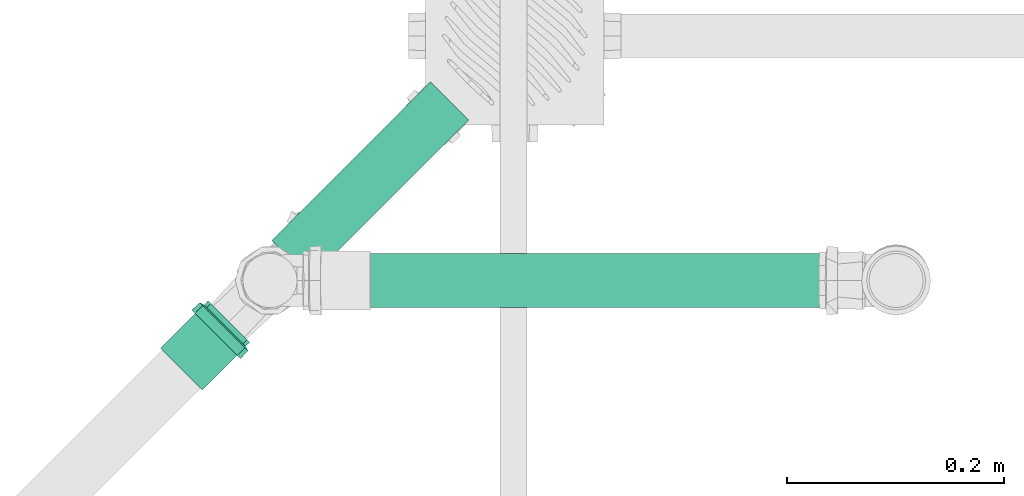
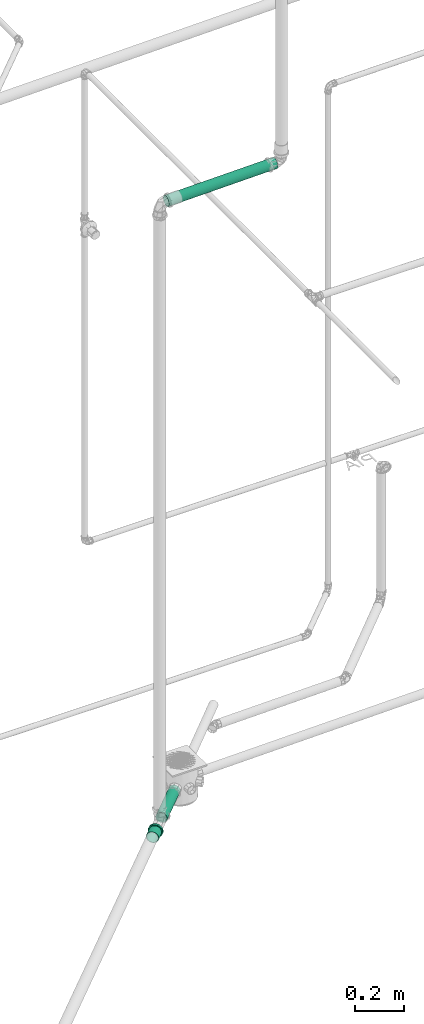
# One storey, part 66 of 589: 2 flow segments, 1 flow fitting.
"""IFC2X3 building model written with IfcOpenShell, lengths in millimetres."""

from ifc_helpers import new_model, entity, si_unit, converted_unit, derived_unit, direction, frame, frame_2d, origin, origin_2d_with_axis, place, context, subcontext, project, spatial, circle, extrude, faceted_brep, source, transform, mapped, material, type_object, type_shapes, element, save


model = new_model("IFC2X3")

# Units and contexts
model_context = context("Model", 3, precision=0.01, world=origin(), true_north=direction((6.123031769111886e-17, 1.0)))
body_context = subcontext(model_context, "Body", "Model", "MODEL_VIEW")
ifc_project = project(units=[si_unit("LENGTHUNIT", "METRE", prefix="MILLI"), si_unit("AREAUNIT", "SQUARE_METRE"), si_unit("VOLUMEUNIT", "CUBIC_METRE"), converted_unit("PLANEANGLEUNIT", "DEGREE", entity("IfcRatioMeasure", 0.017453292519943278), si_unit("PLANEANGLEUNIT", "RADIAN"), dimensions=[0, 0, 0, 0, 0, 0, 0]), si_unit("MASSUNIT", "GRAM", prefix="KILO"), derived_unit("MASSDENSITYUNIT", [(si_unit("MASSUNIT", "GRAM", prefix="KILO"), 1), (si_unit("LENGTHUNIT", "METRE"), -3)]), derived_unit("IONCONCENTRATIONUNIT", [(si_unit("MASSUNIT", "GRAM", prefix="KILO"), 1), (si_unit("LENGTHUNIT", "METRE"), -3)]), derived_unit("MOMENTOFINERTIAUNIT", [(si_unit("LENGTHUNIT", "METRE"), 4)]), si_unit("TIMEUNIT", "SECOND"), si_unit("FREQUENCYUNIT", "HERTZ"), si_unit("THERMODYNAMICTEMPERATUREUNIT", "DEGREE_CELSIUS"), derived_unit("THERMALTRANSMITTANCEUNIT", [(si_unit("MASSUNIT", "GRAM", prefix="KILO"), 1), (si_unit("THERMODYNAMICTEMPERATUREUNIT", "KELVIN"), -1), (si_unit("TIMEUNIT", "SECOND"), -3)]), derived_unit("THERMALCONDUCTANCEUNIT", [(si_unit("MASSUNIT", "GRAM", prefix="KILO"), 1), (si_unit("THERMODYNAMICTEMPERATUREUNIT", "KELVIN"), -1), (si_unit("TIMEUNIT", "SECOND"), -3), (si_unit("LENGTHUNIT", "METRE"), 1)]), derived_unit("VOLUMETRICFLOWRATEUNIT", [(si_unit("LENGTHUNIT", "METRE"), 3), (si_unit("TIMEUNIT", "SECOND"), -1)]), derived_unit("MASSFLOWRATEUNIT", [(si_unit("MASSUNIT", "GRAM", prefix="KILO"), 1), (si_unit("TIMEUNIT", "SECOND"), -1)]), derived_unit("ROTATIONALFREQUENCYUNIT", [(si_unit("TIMEUNIT", "SECOND"), -1)]), si_unit("ELECTRICCURRENTUNIT", "AMPERE"), si_unit("ELECTRICVOLTAGEUNIT", "VOLT"), si_unit("POWERUNIT", "WATT"), si_unit("FORCEUNIT", "NEWTON", prefix="KILO"), si_unit("ILLUMINANCEUNIT", "LUX"), si_unit("LUMINOUSFLUXUNIT", "LUMEN"), si_unit("LUMINOUSINTENSITYUNIT", "CANDELA"), derived_unit("USERDEFINED", [(si_unit("MASSUNIT", "GRAM", prefix="KILO"), -1), (si_unit("LENGTHUNIT", "METRE"), -2), (si_unit("TIMEUNIT", "SECOND"), 3), (si_unit("LUMINOUSFLUXUNIT", "LUMEN"), 1)]), derived_unit("USERDEFINED", [(si_unit("MASSUNIT", "GRAM", prefix="KILO"), 1), (si_unit("TIMEUNIT", "SECOND"), -3), (si_unit("LENGTHUNIT", "METRE"), 3), (si_unit("ELECTRICCURRENTUNIT", "AMPERE"), -2)]), derived_unit("SOUNDPOWERUNIT", [(si_unit("MASSUNIT", "GRAM", prefix="KILO"), 1), (si_unit("TIMEUNIT", "SECOND"), -3), (si_unit("LENGTHUNIT", "METRE"), 2)]), derived_unit("SOUNDPRESSUREUNIT", [(si_unit("MASSUNIT", "GRAM", prefix="KILO"), 1), (si_unit("LENGTHUNIT", "METRE"), -1), (si_unit("TIMEUNIT", "SECOND"), -2)]), derived_unit("LINEARVELOCITYUNIT", [(si_unit("LENGTHUNIT", "METRE"), 1), (si_unit("TIMEUNIT", "SECOND"), -1)]), si_unit("PRESSUREUNIT", "PASCAL"), derived_unit("USERDEFINED", [(si_unit("MASSUNIT", "GRAM", prefix="KILO"), 1), (si_unit("LENGTHUNIT", "METRE"), -2), (si_unit("TIMEUNIT", "SECOND"), -2)]), derived_unit("LINEARFORCEUNIT", [(si_unit("MASSUNIT", "GRAM", prefix="KILO"), 1), (si_unit("TIMEUNIT", "SECOND"), -2)]), derived_unit("PLANARFORCEUNIT", [(si_unit("MASSUNIT", "GRAM", prefix="KILO"), 1), (si_unit("LENGTHUNIT", "METRE"), -1), (si_unit("TIMEUNIT", "SECOND"), -2)]), derived_unit("SPECIFICHEATCAPACITYUNIT", [(si_unit("THERMODYNAMICTEMPERATUREUNIT", "KELVIN"), -1), (si_unit("LENGTHUNIT", "METRE"), 2), (si_unit("TIMEUNIT", "SECOND"), -2)]), derived_unit("HEATINGVALUEUNIT", [(si_unit("LENGTHUNIT", "METRE"), 2), (si_unit("TIMEUNIT", "SECOND"), -2)]), derived_unit("VAPORPERMEABILITYUNIT", [(si_unit("LENGTHUNIT", "METRE"), -1), (si_unit("TIMEUNIT", "SECOND"), 1)]), derived_unit("DYNAMICVISCOSITYUNIT", [(si_unit("MASSUNIT", "GRAM", prefix="KILO"), 1), (si_unit("TIMEUNIT", "SECOND"), -1), (si_unit("LENGTHUNIT", "METRE"), -1)]), derived_unit("THERMALEXPANSIONCOEFFICIENTUNIT", [(si_unit("THERMODYNAMICTEMPERATUREUNIT", "KELVIN"), -1)]), derived_unit("MODULUSOFELASTICITYUNIT", [(si_unit("MASSUNIT", "GRAM", prefix="KILO"), 1), (si_unit("LENGTHUNIT", "METRE"), -1), (si_unit("TIMEUNIT", "SECOND"), -2)]), derived_unit("ISOTHERMALMOISTURECAPACITYUNIT", [(si_unit("LENGTHUNIT", "METRE"), 3), (si_unit("MASSUNIT", "GRAM", prefix="KILO"), -1)]), derived_unit("MOISTUREDIFFUSIVITYUNIT", [(si_unit("TIMEUNIT", "SECOND"), -1), (si_unit("LENGTHUNIT", "METRE"), 2)])], contexts=[model_context])

# Site, building, storey
site_placement = place(None, origin())
site = spatial("IfcSite", under=ifc_project, at=site_placement, Name="Default", CompositionType="ELEMENT")
building_placement = place(site_placement, origin())
building = spatial("IfcBuilding", under=site, at=building_placement, CompositionType="ELEMENT")
storey_placement = place(building_placement, frame((0.0, 0.0, 100.0)))
storey = spatial("IfcBuildingStorey", under=building, at=storey_placement, Name="TÉRREO", CompositionType="ELEMENT", Elevation=100.0)

# Flow segments
pipe_segment_type = type_object("IfcPipeSegmentType", Name="Tipos de tubos:PVC Esgoto Série Normal", PredefinedType="NOTDEFINED")
flow_segment_1_placement = place(storey_placement, origin())
element("IfcFlowSegment", 1, at=flow_segment_1_placement, inside=storey, type_object=pipe_segment_type, Name="Tipos de tubos:PVC Esgoto Série Normal", ObjectType="Tipos de tubos:PVC Esgoto Série Normal", context=body_context, shape_type="SweptSolid", body=[
    extrude(circle(Radius=25.0, at=frame_2d((0.0, -2.1149748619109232e-14), x_axis=(1.0, 0.0))), frame((-7567.568450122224, -5310.745258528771, -109.95070554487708), z_axis=(0.7071067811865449, 0.7071067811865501, 0.0), x_axis=(-0.7071067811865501, 0.7071067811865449, 0.0)), (0.0, 0.0, 1.0), 207.1660925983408),
])
flow_segment_2_placement = place(storey_placement, origin())
element("IfcFlowSegment", 2, at=flow_segment_2_placement, inside=storey, type_object=pipe_segment_type, Name="Tipos de tubos:PVC Esgoto Série Normal", ObjectType="Tipos de tubos:PVC Esgoto Série Normal", context=body_context, shape_type="SweptSolid", body=[
    extrude(circle(Radius=25.0, at=origin_2d_with_axis()), frame((-7556.31313326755, -5330.070962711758, 2995.447097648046), z_axis=(0.999800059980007, 0.0, 0.01999600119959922), x_axis=(0.0, -1.0, 0.0)), (0.0, 0.0, 1.0), 516.4963559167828),
])

# Flow fitting
ifc_material = material(Name="PVC Série Normal")
pipe_fitting_type = type_object("IfcPipeFittingType", Name="PVC Esgoto_Luva Simples para Conexão_Rodrigo MEP:Standard", PredefinedType="NOTDEFINED", material=ifc_material)
shared_shape = source(origin(), body_context, "Body", "Brep", [
    faceted_brep([(16.599999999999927, 15.900000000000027, -27.53960784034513), (16.599999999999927, 22.485995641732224, -22.485995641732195), (16.599999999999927, 13.599999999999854, -23.555890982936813), (16.599999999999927, 7.039878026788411, -26.273182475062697), (16.599999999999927, 8.2304456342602, -30.71644127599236), (16.599999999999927, 19.233304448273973, -19.233304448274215), (16.599999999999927, 27.539607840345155, -15.899999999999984), (16.599999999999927, 23.55589098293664, -13.600000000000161), (16.599999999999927, 26.273182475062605, -7.03987802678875), (16.599999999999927, 30.716441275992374, -8.230445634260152), (16.599999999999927, 27.2, 0.0), (16.599999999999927, 31.8, 0.0), (16.599999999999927, 26.273182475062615, 7.0398780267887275), (16.599999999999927, 30.71644127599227, 8.23044563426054), (16.599999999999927, 23.555890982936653, 13.60000000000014), (16.599999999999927, 27.539607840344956, 15.900000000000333), (16.599999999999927, 19.233304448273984, 19.2333044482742), (16.599999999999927, 22.485995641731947, 22.48599564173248), (16.599999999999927, 13.599999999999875, 23.555890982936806), (16.599999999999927, 15.899999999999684, 27.53960784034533), (16.599999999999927, 7.039878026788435, 26.27318247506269), (16.599999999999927, 8.230445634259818, 30.716441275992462), (16.599999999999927, 0.0, 27.2), (16.599999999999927, 0.0, 31.8), (16.599999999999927, -7.039878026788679, 26.273182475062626), (16.599999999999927, -8.230445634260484, 30.716441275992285), (16.599999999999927, -13.600000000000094, 23.555890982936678), (16.599999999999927, -15.900000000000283, 27.53960784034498), (16.599999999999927, -19.23330444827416, 19.233304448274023), (16.599999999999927, -22.485995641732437, 22.48599564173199), (16.599999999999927, -23.55589098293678, 13.59999999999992), (16.599999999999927, -27.539607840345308, 15.899999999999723), (16.599999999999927, -30.71644127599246, 8.230445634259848), (16.599999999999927, -26.273182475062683, 7.039878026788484), (16.599999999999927, -31.8, 0.0), (16.599999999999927, -27.2, 0.0), (16.599999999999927, -30.71644127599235, -8.23044563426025), (16.599999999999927, -26.273182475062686, -7.03987802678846), (16.599999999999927, -27.53960784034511, -15.90000000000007), (16.599999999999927, -23.55589098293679, -13.599999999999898), (16.599999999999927, -22.485995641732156, -22.485995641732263), (16.599999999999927, -19.233304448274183, -19.233304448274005), (16.599999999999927, -15.899999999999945, -27.53960784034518), (16.599999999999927, -13.600000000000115, -23.555890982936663), (16.599999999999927, -8.230445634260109, -30.716441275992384), (16.599999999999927, -7.039878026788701, -26.273182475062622), (16.599999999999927, 0.0, -31.8), (16.599999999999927, 0.0, -27.2), (6.500000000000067, -10.708108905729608, 29.429219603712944), (6.500000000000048, -24.359073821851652, 20.44200387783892), (6.500000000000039, -27.120498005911, 15.6595386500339), (6.50000000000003, -29.881922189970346, 10.877073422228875), (6.500000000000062, -15.89769721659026, 27.540937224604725), (6.500000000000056, -20.128385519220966, 23.991470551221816), (6.50000000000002, -30.840961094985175, 5.438536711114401), (6.5000000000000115, -31.8, 0.0), (6.50000000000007, -5.518520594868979, 31.317501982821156), (6.500000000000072, 5.526376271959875, 31.316116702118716), (6.50000000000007, 0.00392783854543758, 31.316809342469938), (6.500000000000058, 20.134403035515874, 23.986420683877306), (6.500000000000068, 10.715490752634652, 29.42653259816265), (6.500000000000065, 15.904605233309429, 27.536948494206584), (6.500000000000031, 29.8846497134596, 10.869577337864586), (6.500000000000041, 27.12442527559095, 15.652735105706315), (6.5000000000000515, 24.364200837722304, 20.435892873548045), (6.5000000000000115, 31.8, 0.0), (6.499999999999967, 24.364200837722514, -20.435892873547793), (6.499999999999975, 27.12442527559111, -15.652735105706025), (6.499999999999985, 29.884649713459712, -10.869577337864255), (6.4999999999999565, 15.904605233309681, -27.53694849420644), (6.499999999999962, 20.134403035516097, -23.986420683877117), (6.499999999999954, 10.715490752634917, -29.42653259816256), (6.499999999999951, 5.526376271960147, -31.31611670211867), (6.499999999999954, -5.518520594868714, -31.317501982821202), (6.499999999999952, 0.003927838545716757, -31.316809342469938), (6.499999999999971, -20.128385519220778, -23.99147055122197), (6.499999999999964, -15.897697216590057, -27.54093722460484), (6.499999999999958, -10.70810890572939, -29.42921960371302), (6.499999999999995, -29.881922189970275, -10.877073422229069), (6.499999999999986, -27.12049800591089, -15.659538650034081), (6.499999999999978, -24.359073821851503, -20.442003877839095), (6.500000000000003, -30.840961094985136, -5.438536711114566), (6.499999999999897, -30.696173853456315, -6.259599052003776), (62.0, 13.600000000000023, -23.55589098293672), (62.0, 19.233304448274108, -19.23330444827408), (62.0, 12.499999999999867, -21.650635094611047), (62.0, 6.470476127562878, -24.14814565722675), (62.0, 7.039878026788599, -26.273182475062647), (62.0, 17.677669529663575, -17.677669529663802), (62.0, 23.55589098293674, -13.599999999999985), (62.0, 21.65063509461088, -12.50000000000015), (62.0, 24.148145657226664, -6.470476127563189), (62.0, 26.27318247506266, -7.039878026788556), (62.0, 25.0, 0.0), (62.0, 27.2, 0.0), (62.0, 24.148145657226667, 6.4704761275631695), (62.0, 26.273182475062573, 7.03987802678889), (62.0, 21.650635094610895, 12.500000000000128), (62.0, 23.555890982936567, 13.600000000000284), (62.0, 17.67766952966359, 17.67766952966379), (62.0, 19.233304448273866, 19.233304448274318), (62.0, 12.499999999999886, 21.650635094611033), (62.0, 13.59999999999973, 23.55589098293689), (62.0, 6.4704761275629, 24.14814565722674), (62.0, 7.039878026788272, 26.273182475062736), (62.0, 0.0, 25.0), (62.0, 0.0, 27.2), (62.0, -6.470476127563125, 24.148145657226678), (62.0, -7.039878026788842, 26.273182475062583), (62.0, -12.500000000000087, 21.650635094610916), (62.0, -13.600000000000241, 23.555890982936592), (62.0, -17.677669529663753, 17.677669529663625), (62.0, -19.233304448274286, 19.2333044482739), (62.0, -21.65063509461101, 12.499999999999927), (62.0, -23.555890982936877, 13.599999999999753), (62.0, -26.27318247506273, 7.039878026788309), (62.0, -24.14814565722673, 6.470476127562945), (62.0, -27.2, 0.0), (62.0, -25.0, 0.0), (62.0, -26.27318247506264, -7.0398780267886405), (62.0, -24.148145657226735, -6.470476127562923), (62.0, -23.5558909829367, -13.600000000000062), (62.0, -21.650635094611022, -12.499999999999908), (62.0, -19.233304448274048, -19.233304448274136), (62.0, -17.67766952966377, -17.677669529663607), (62.0, -13.599999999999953, -23.555890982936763), (62.0, -12.500000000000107, -21.650635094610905), (62.0, -7.039878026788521, -26.27318247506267), (62.0, -6.470476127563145, -24.148145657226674), (62.0, 0.0, -27.2), (62.0, 0.0, -25.0), (0.0, 12.499999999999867, -21.650635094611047), (0.0, 19.233304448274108, -19.23330444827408), (0.0, 13.600000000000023, -23.55589098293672), (0.0, 6.470476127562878, -24.14814565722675), (0.0, 17.677669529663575, -17.677669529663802), (0.0, 23.55589098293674, -13.599999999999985), (0.0, 21.65063509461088, -12.50000000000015), (0.0, 24.148145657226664, -6.470476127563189), (0.0, 26.27318247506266, -7.039878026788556), (0.0, 25.0, 0.0), (0.0, 27.2, 0.0), (0.0, 24.148145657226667, 6.4704761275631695), (0.0, 26.273182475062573, 7.03987802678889), (0.0, 21.650635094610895, 12.500000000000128), (0.0, 23.555890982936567, 13.600000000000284), (0.0, 17.67766952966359, 17.67766952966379), (0.0, 19.233304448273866, 19.233304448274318), (0.0, 12.499999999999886, 21.650635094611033), (0.0, 13.59999999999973, 23.55589098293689), (0.0, 6.4704761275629, 24.14814565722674), (0.0, 7.039878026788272, 26.273182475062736), (0.0, 0.0, 25.0), (0.0, 0.0, 27.2), (0.0, -6.470476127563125, 24.148145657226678), (0.0, -7.039878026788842, 26.273182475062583), (0.0, -12.500000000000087, 21.650635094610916), (0.0, -13.600000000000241, 23.555890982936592), (0.0, -17.677669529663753, 17.677669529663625), (0.0, -19.233304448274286, 19.2333044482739), (0.0, -21.65063509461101, 12.499999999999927), (0.0, -23.555890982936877, 13.599999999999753), (0.0, -26.27318247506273, 7.039878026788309), (0.0, -24.14814565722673, 6.470476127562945), (0.0, -27.2, 0.0), (0.0, -25.0, 0.0), (0.0, -26.27318247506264, -7.0398780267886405), (0.0, -24.148145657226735, -6.470476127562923), (0.0, -23.5558909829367, -13.600000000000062), (0.0, -21.650635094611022, -12.499999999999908), (0.0, -19.233304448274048, -19.233304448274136), (0.0, -17.67766952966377, -17.677669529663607), (0.0, -13.599999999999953, -23.555890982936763), (0.0, -12.500000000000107, -21.650635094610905), (0.0, -7.039878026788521, -26.27318247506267), (0.0, -6.470476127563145, -24.148145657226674), (0.0, 0.0, -27.2), (0.0, 0.0, -25.0), (0.0, 7.039878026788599, -26.273182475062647), (5.300000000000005, -26.37968999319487, 4.651830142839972), (5.299999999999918, -26.25584678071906, 5.354122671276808), (5.300000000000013, -25.559379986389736, 9.303660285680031), (5.300000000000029, -20.835434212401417, 17.48498444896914), (5.300000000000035, -17.216732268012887, 20.521006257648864), (5.300000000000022, -23.19740709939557, 13.394322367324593), (5.3000000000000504, -4.720244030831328, 26.787297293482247), (5.300000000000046, -9.15913717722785, 25.172162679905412), (5.299999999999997, -27.2, 0.0), (5.300000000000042, -13.598030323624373, 23.557028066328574), (5.300000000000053, 9.165451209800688, 25.169864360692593), (5.300000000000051, 13.603939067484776, 23.55361632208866), (5.300000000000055, 4.7269633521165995, 26.786112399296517), (5.300000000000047, 17.221879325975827, 20.516686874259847), (5.300000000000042, 20.839819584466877, 17.479757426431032), (5.3000000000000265, 25.56171296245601, 9.297248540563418), (5.299999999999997, 27.2, 0.0), (5.3000000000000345, 23.20076627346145, 13.388502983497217), (5.300000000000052, 0.003359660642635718, 26.786704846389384), (5.299999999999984, 25.56171296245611, -9.29724854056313), (5.299999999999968, 20.839819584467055, -17.47975742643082), (5.2999999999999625, 17.22187932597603, -20.516686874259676), (5.299999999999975, 23.200766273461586, -13.388502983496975), (5.299999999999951, 4.726963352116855, -26.78611239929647), (5.2999999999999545, 9.165451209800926, -25.169864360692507), (5.299999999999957, 13.603939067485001, -23.553616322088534), (5.29999999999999, -26.379689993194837, -4.651830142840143), (5.299999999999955, -9.159137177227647, -25.17216267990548), (5.299999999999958, -13.5980303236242, -23.55702806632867), (5.299999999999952, -4.720244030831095, -26.787297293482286), (5.299999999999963, -17.216732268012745, -20.52100625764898), (5.299999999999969, -20.83543421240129, -17.484984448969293), (5.299999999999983, -25.559379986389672, -9.303660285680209), (5.299999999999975, -23.197407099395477, -13.394322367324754), (5.299999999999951, 0.003359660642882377, -26.78670484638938), (39.0, -25.0, 0.0), (39.0, 25.0, 0.0)], [[[0, 1, 2]], [[0, 2, 3]], [[3, 4, 0]], [[2, 1, 5]], [[6, 5, 1]], [[7, 5, 6]], [[8, 7, 6]], [[8, 6, 9]], [[8, 9, 10]], [[10, 9, 11]], [[12, 10, 11]], [[12, 11, 13]], [[14, 12, 13]], [[14, 13, 15]], [[16, 14, 15]], [[15, 17, 16]], [[17, 18, 16]], [[17, 19, 18]], [[18, 19, 20]], [[21, 20, 19]], [[20, 21, 22]], [[22, 21, 23]], [[22, 23, 24]], [[24, 23, 25]], [[24, 25, 26]], [[27, 26, 25]], [[27, 28, 26]], [[28, 27, 29]], [[30, 28, 29]], [[31, 30, 29]], [[32, 30, 31]], [[33, 30, 32]], [[33, 32, 34]], [[35, 33, 34]], [[36, 35, 34]], [[36, 37, 35]], [[37, 36, 38]], [[39, 37, 38]], [[39, 38, 40]], [[39, 40, 41]], [[40, 42, 41]], [[41, 42, 43]], [[43, 42, 44]], [[44, 45, 43]], [[46, 45, 44]], [[4, 47, 46]], [[46, 47, 45]], [[4, 3, 47]], [[48, 27, 25]], [[31, 29, 49]], [[31, 49, 50, 51]], [[52, 53, 27]], [[32, 51, 54]], [[54, 55, 34]], [[54, 34, 32]], [[25, 56, 48]], [[49, 29, 53]], [[23, 57, 58, 56]], [[59, 19, 17]], [[27, 53, 29]], [[48, 52, 27]], [[31, 51, 32]], [[57, 23, 21]], [[60, 19, 61]], [[15, 62, 63, 64]], [[19, 60, 21]], [[15, 13, 62]], [[17, 64, 59]], [[57, 21, 60]], [[23, 56, 25]], [[15, 64, 17]], [[13, 65, 62]], [[13, 11, 65]], [[59, 61, 19]], [[65, 11, 9]], [[6, 1, 66]], [[6, 66, 67, 68]], [[69, 70, 0]], [[68, 65, 9]], [[71, 69, 0]], [[71, 0, 4]], [[4, 72, 71]], [[66, 1, 70]], [[46, 73, 74, 72]], [[75, 76, 42]], [[0, 70, 1]], [[75, 42, 40]], [[6, 68, 9]], [[73, 46, 44]], [[77, 42, 76]], [[38, 78, 79, 80]], [[42, 77, 44]], [[38, 36, 78]], [[40, 80, 75]], [[73, 44, 77]], [[46, 72, 4]], [[38, 80, 40]], [[36, 81, 82, 78]], [[55, 81, 34]], [[34, 81, 36]], [[83, 84, 85]], [[83, 85, 86]], [[86, 87, 83]], [[85, 84, 88]], [[89, 88, 84]], [[88, 89, 90]], [[90, 89, 91]], [[92, 91, 89]], [[92, 93, 91]], [[93, 92, 94]], [[95, 93, 94]], [[94, 96, 95]], [[95, 96, 97]], [[98, 97, 96]], [[97, 98, 99]], [[99, 98, 100]], [[101, 99, 100]], [[100, 102, 101]], [[101, 102, 103]], [[104, 103, 102]], [[103, 104, 105]], [[105, 104, 106]], [[105, 106, 107]], [[107, 106, 108]], [[107, 108, 109]], [[110, 109, 108]], [[110, 111, 109]], [[111, 110, 112]], [[112, 113, 111]], [[114, 113, 112]], [[113, 114, 115]], [[115, 116, 113]], [[117, 116, 115]], [[117, 118, 116]], [[119, 118, 117]], [[119, 120, 118]], [[120, 119, 121]], [[121, 122, 120]], [[122, 121, 123]], [[122, 123, 124]], [[123, 125, 124]], [[124, 125, 126]], [[126, 125, 127]], [[127, 128, 126]], [[129, 128, 127]], [[87, 130, 129]], [[129, 130, 128]], [[87, 86, 130]], [[131, 132, 133]], [[134, 131, 133]], [[135, 132, 131]], [[132, 135, 136]], [[137, 136, 135]], [[138, 136, 137]], [[136, 138, 139]], [[138, 140, 139]], [[141, 139, 140]], [[141, 140, 142]], [[142, 143, 141]], [[144, 143, 142]], [[143, 144, 145]], [[146, 145, 144]], [[147, 145, 146]], [[147, 146, 148]], [[148, 149, 147]], [[150, 149, 148]], [[149, 150, 151]], [[152, 151, 150]], [[153, 151, 152]], [[154, 153, 152]], [[155, 153, 154]], [[156, 155, 154]], [[155, 156, 157]], [[156, 158, 157]], [[159, 157, 158]], [[158, 160, 159]], [[159, 160, 161]], [[162, 161, 160]], [[160, 163, 162]], [[162, 163, 164]], [[163, 165, 164]], [[164, 165, 166]], [[165, 167, 166]], [[168, 166, 167]], [[167, 169, 168]], [[170, 168, 169]], [[171, 170, 169]], [[171, 172, 170]], [[173, 172, 171]], [[174, 172, 173]], [[173, 175, 174]], [[174, 175, 176]], [[175, 177, 176]], [[177, 134, 178]], [[176, 177, 178]], [[133, 178, 134]], [[162, 179, 180, 181]], [[159, 182, 183]], [[182, 161, 181, 184]], [[185, 155, 186]], [[161, 162, 181]], [[187, 179, 164]], [[183, 188, 157]], [[183, 157, 159]], [[161, 182, 159]], [[189, 190, 149]], [[189, 149, 151]], [[157, 188, 186]], [[157, 186, 155]], [[153, 155, 185]], [[164, 179, 162]], [[151, 191, 189]], [[147, 192, 193]], [[143, 194, 195]], [[194, 145, 193, 196]], [[143, 195, 141]], [[10, 12, 96, 94]], [[149, 192, 147]], [[153, 185, 197, 191]], [[153, 191, 151]], [[145, 147, 193]], [[190, 192, 149]], [[145, 194, 143]], [[139, 195, 198]], [[132, 199, 200]], [[199, 136, 198, 201]], [[202, 178, 203]], [[136, 139, 198]], [[139, 141, 195]], [[92, 8, 10, 94]], [[133, 203, 178]], [[200, 204, 133]], [[136, 199, 132]], [[205, 164, 166]], [[206, 207, 172]], [[133, 204, 203]], [[206, 172, 174]], [[176, 178, 202]], [[200, 133, 132]], [[174, 208, 206]], [[170, 209, 210]], [[166, 211, 205]], [[211, 168, 210, 212]], [[168, 211, 166]], [[172, 209, 170]], [[176, 202, 213, 208]], [[176, 208, 174]], [[168, 170, 210]], [[207, 209, 172]], [[205, 187, 164]], [[116, 118, 214, 165, 163]], [[156, 109, 111, 158]], [[111, 113, 160, 158]], [[113, 116, 163, 160]], [[107, 109, 156, 154]], [[154, 152, 105, 107]], [[103, 105, 152, 150]], [[103, 150, 148, 101]], [[142, 95, 97, 144]], [[97, 99, 146, 144]], [[99, 101, 148, 146]], [[93, 95, 142, 140, 215]], [[215, 140, 138, 91, 93]], [[135, 131, 85, 88]], [[90, 91, 138, 137]], [[90, 137, 135, 88]], [[86, 85, 131, 134]], [[134, 177, 130, 86]], [[128, 130, 177, 175]], [[128, 175, 173, 126]], [[167, 120, 122, 169]], [[122, 124, 171, 169]], [[124, 126, 173, 171]], [[118, 120, 167, 165, 214]], [[211, 78, 82, 81, 55, 187, 205]], [[79, 78, 211, 212, 210, 80]], [[75, 80, 210, 209, 207, 76]], [[207, 206, 208, 73, 77, 76]], [[213, 202, 72, 74, 73, 208]], [[203, 204, 69, 71, 72, 202]], [[198, 195, 65, 68]], [[199, 201, 198, 68, 67, 66]], [[204, 200, 199, 66, 70, 69]], [[195, 194, 62, 65]], [[197, 185, 56, 58, 57, 191]], [[63, 62, 194, 196, 193, 64]], [[57, 60, 61, 190, 189, 191]], [[193, 192, 190, 61, 59, 64]], [[48, 56, 185, 186, 188, 52]], [[187, 55, 54, 51, 181, 180, 179]], [[182, 184, 181, 51, 50, 49]], [[188, 183, 182, 49, 53, 52]], [[30, 33, 115, 114]], [[117, 115, 33, 35]], [[26, 28, 112, 110]], [[114, 112, 28, 30]], [[24, 26, 110, 108]], [[108, 106, 22, 24]], [[18, 20, 104, 102]], [[100, 16, 18, 102]], [[12, 14, 98, 96]], [[100, 98, 14, 16]], [[104, 20, 22, 106]], [[89, 7, 8, 92]], [[83, 87, 3, 2]], [[7, 89, 84, 5]], [[83, 2, 5, 84]], [[87, 129, 47, 3]], [[43, 45, 127, 125]], [[123, 41, 43, 125]], [[37, 39, 121, 119]], [[123, 121, 39, 41]], [[35, 37, 119, 117]], [[127, 45, 47, 129]]]),
])
type_shapes(pipe_fitting_type, [shared_shape])
flow_fitting_placement = place(storey_placement, frame((-7624.892537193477, -5367.972470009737, -112.37259530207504), z_axis=(-0.7071067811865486, 0.7071067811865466, 0.0), x_axis=(-0.7071067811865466, -0.7071067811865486, 0.0)))
element("IfcFlowFitting", 3, at=flow_fitting_placement, inside=storey, type_object=pipe_fitting_type, material=ifc_material, Name="PVC Esgoto_Luva Simples para Conexão_Rodrigo MEP:Standard", ObjectType="PVC Esgoto_Luva Simples para Conexão_Rodrigo MEP:Standard", context=body_context, shape_type="MappedRepresentation", body=[
    mapped(shared_shape, transform((0.0, 0.0, 0.0), scale=1.0)),
])

save(model, "model.ifc")
